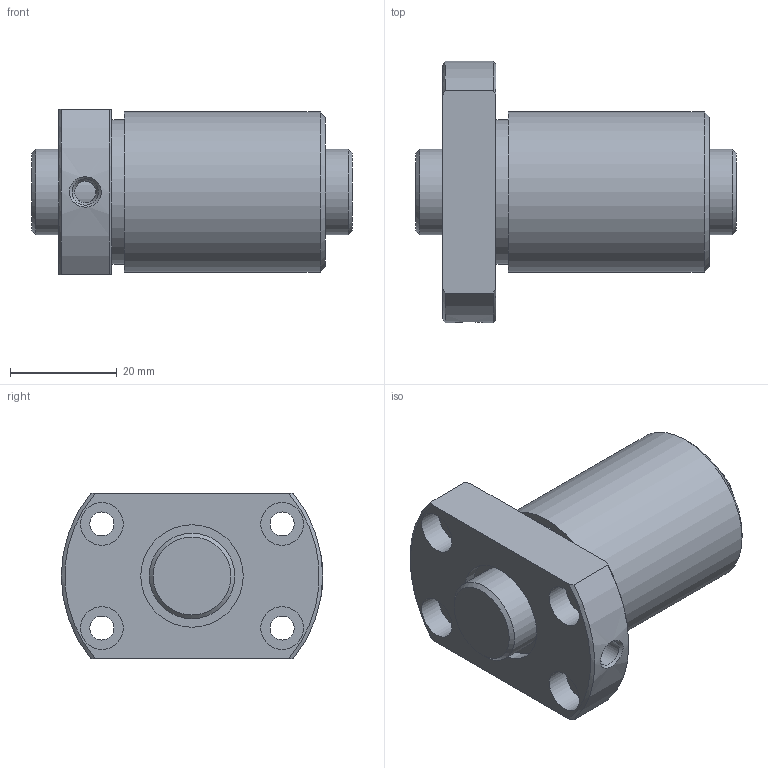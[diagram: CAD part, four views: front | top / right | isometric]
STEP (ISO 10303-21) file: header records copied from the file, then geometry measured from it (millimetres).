
FILE_DESCRIPTION(/* description */ ('STEP AP203'),/* implementation_level */ '2;1');
FILE_NAME(/* name */ 'DK1605-4RRG1+60LC0_000',/* time_stamp */ '2025-01-13T09:07:54+01:00',/* author */ ('License CC BY-ND 4.0'),/* organization */ ('CADENAS'),/* preprocessor_version */ 'ST-DEVELOPER v19.3',/* originating_system */ 'PARTsolutions',/* authorisation */ ' ');
FILE_SCHEMA (('CONFIG_CONTROL_DESIGN'));
Length unit declared in the file: millimetre
Products named in the file (3): DK1605-4RRG1+60LC0_000; DK 1605-4RR06000 Shaft; DK 1605-4RR0Nut
Assembly tree (2 placements, depth 2):
  DK1605-4RRG1+60LC0_000
    DK 1605-4RR06000 Shaft
    DK 1605-4RR0Nut
Bounding box: 60 x 49 x 31 mm (x, y, z)
Volume: 42078.5 mm3; surface area: 14526.5 mm2
Topology: 2 solids, 2 shells, 41 faces, 83 edges, 54 vertices
Faces by surface type: cylinder 18, plane 14, cone 9
Full cylindrical faces by diameter (mm): 4 x1, 4.5 x4, 4.917 x1, 8 x4, 16 x2, 19.2 x2, 27 x1, 30 x1
Entity records: 1087 total; most frequent: CARTESIAN_POINT 200, DIRECTION 180, ORIENTED_EDGE 120, AXIS2_PLACEMENT_3D 86, EDGE_LOOP 82, FACE_BOUND 82, EDGE_CURVE 60, VERTEX_POINT 52
